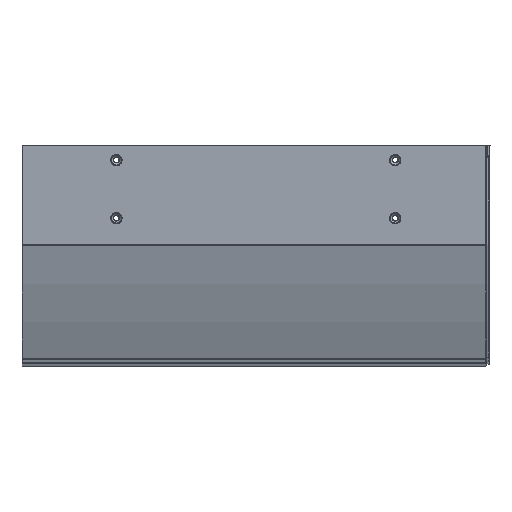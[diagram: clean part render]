
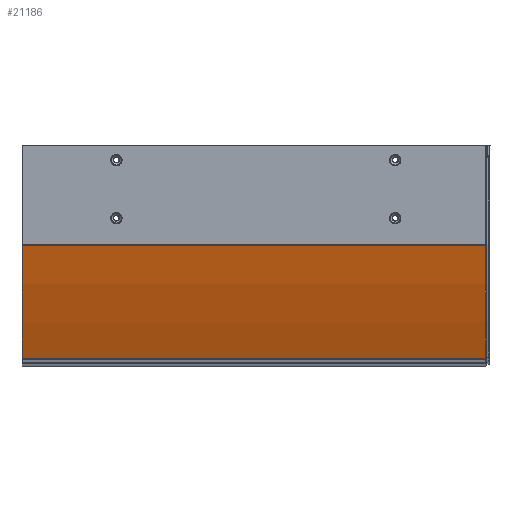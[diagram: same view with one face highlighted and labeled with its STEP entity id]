
A CAD part, front view. The second image highlights one B-rep face of the part: STEP entity #21186.
In plain terms, the highlighted cylindrical face has radius 600 mm (diameter 1200 mm), a partial arc.
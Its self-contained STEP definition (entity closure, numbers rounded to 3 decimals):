
#3646=DIRECTION('',(-1.,0.,0.));
#3647=VECTOR('',#3646,398.911);
#3648=CARTESIAN_POINT('',(197.661,75.053,-193.223));
#3649=LINE('',#3648,#3647);
#3650=DIRECTION('',(1.,0.,0.));
#3651=VECTOR('',#3650,398.911);
#3652=CARTESIAN_POINT('',(-201.25,40.171,
-95.883));
#3653=LINE('',#3652,#3651);
#3810=CARTESIAN_POINT('',(197.661,620.339,57.104));
#3811=DIRECTION('',(-1.,0.,0.));
#3812=DIRECTION('',(0.,-0.909,-0.417));
#3813=AXIS2_PLACEMENT_3D('',#3810,#3811,#3812);
#5598=CARTESIAN_POINT('',(-201.25,620.339,57.104));
#5599=DIRECTION('',(1.,0.,0.));
#5600=DIRECTION('',(0.,-0.967,-0.255));
#5601=AXIS2_PLACEMENT_3D('',#5598,#5599,#5600);
#14744=CARTESIAN_POINT('',(-201.25,40.171,
-95.883));
#14745=CARTESIAN_POINT('',(197.661,40.173,
-95.891));
#14746=VERTEX_POINT('',#14744);
#14747=VERTEX_POINT('',#14745);
#14748=CARTESIAN_POINT('',(197.661,75.053,
-193.223));
#14749=CARTESIAN_POINT('',(-201.25,75.053,-193.223));
#14750=VERTEX_POINT('',#14748);
#14751=VERTEX_POINT('',#14749);
#21172=CARTESIAN_POINT('',(-200.,620.339,57.104));
#21173=DIRECTION('',(1.,0.,0.));
#21174=DIRECTION('',(0.,-1.,0.));
#21175=AXIS2_PLACEMENT_3D('',#21172,#21173,#21174);
#21176=CYLINDRICAL_SURFACE('',#21175,600.);
#21178=ORIENTED_EDGE('',*,*,#21177,.T.);
#21180=ORIENTED_EDGE('',*,*,#21179,.F.);
#21181=ORIENTED_EDGE('',*,*,#21162,.T.);
#21183=ORIENTED_EDGE('',*,*,#21182,.F.);
#21184=EDGE_LOOP('',(#21178,#21180,#21181,#21183));
#21185=FACE_OUTER_BOUND('',#21184,.F.);
#21186=ADVANCED_FACE('',(#21185),#21176,.T.);
#3814=CIRCLE('',#3813,600.);
#5602=CIRCLE('',#5601,600.);
#21162=EDGE_CURVE('',#14746,#14747,#3653,.T.);
#21177=EDGE_CURVE('',#14750,#14751,#3649,.T.);
#21179=EDGE_CURVE('',#14746,#14751,#5602,.T.);
#21182=EDGE_CURVE('',#14750,#14747,#3814,.T.);
